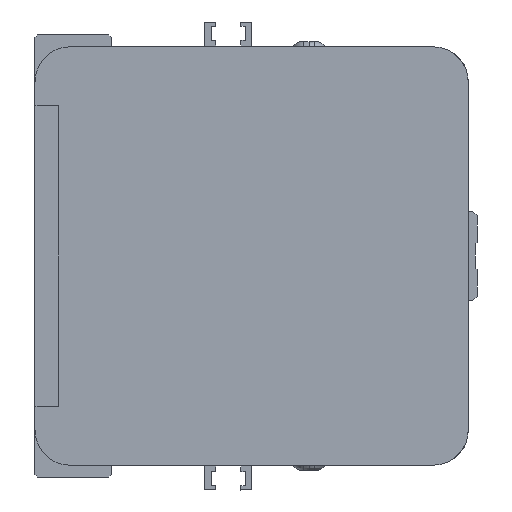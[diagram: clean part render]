
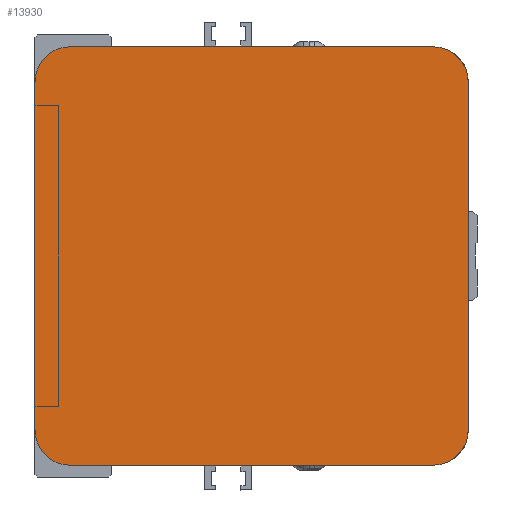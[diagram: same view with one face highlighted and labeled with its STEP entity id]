
A CAD part, left-side view. The second image highlights one B-rep face of the part: STEP entity #13930.
In plain terms, the highlighted planar face has unit normal (-1, 0, 0) as drawn and (0, 0, -1) by its records, which use the part's own axes.
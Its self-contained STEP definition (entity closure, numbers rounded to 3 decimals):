
#1020=CIRCLE('',#14943,6.);
#1021=CIRCLE('',#14948,6.);
#1029=CIRCLE('',#14959,6.);
#1030=CIRCLE('',#14961,6.);
#1724=FACE_OUTER_BOUND('',#2579,.T.);
#2579=EDGE_LOOP('',(#9758,#9759,#9760,#9761,#9762,#9763,#9764,#9765));
#3685=LINE('',#19662,#4965);
#3690=LINE('',#19673,#4970);
#3697=LINE('',#19688,#4977);
#3701=LINE('',#19773,#4981);
#4965=VECTOR('',#16281,61.5);
#4970=VECTOR('',#16292,59.);
#4977=VECTOR('',#16309,61.5);
#4981=VECTOR('',#16335,59.);
#6246=VERTEX_POINT('',#19658);
#6248=VERTEX_POINT('',#19661);
#6249=VERTEX_POINT('',#19666);
#6251=VERTEX_POINT('',#19672);
#6253=VERTEX_POINT('',#19683);
#6254=VERTEX_POINT('',#19687);
#6263=VERTEX_POINT('',#19768);
#6264=VERTEX_POINT('',#19772);
#7661=EDGE_CURVE('',#6248,#6246,#3685,.T.);
#7664=EDGE_CURVE('',#6248,#6249,#1020,.T.);
#7667=EDGE_CURVE('',#6251,#6249,#3690,.T.);
#7673=EDGE_CURVE('',#6251,#6253,#1021,.T.);
#7675=EDGE_CURVE('',#6254,#6253,#3697,.T.);
#7688=EDGE_CURVE('',#6263,#6246,#1029,.T.);
#7689=EDGE_CURVE('',#6263,#6264,#3701,.T.);
#7690=EDGE_CURVE('',#6254,#6264,#1030,.T.);
#9758=ORIENTED_EDGE('',*,*,#7673,.F.);
#9759=ORIENTED_EDGE('',*,*,#7667,.T.);
#9760=ORIENTED_EDGE('',*,*,#7664,.F.);
#9761=ORIENTED_EDGE('',*,*,#7661,.T.);
#9762=ORIENTED_EDGE('',*,*,#7688,.F.);
#9763=ORIENTED_EDGE('',*,*,#7689,.T.);
#9764=ORIENTED_EDGE('',*,*,#7690,.F.);
#9765=ORIENTED_EDGE('',*,*,#7675,.T.);
#13393=PLANE('',#14960);
#13930=ADVANCED_FACE('',(#1724),#13393,.F.);
#14943=AXIS2_PLACEMENT_3D('',#19667,#16286,#16287);
#14948=AXIS2_PLACEMENT_3D('',#19684,#16304,#16305);
#14959=AXIS2_PLACEMENT_3D('',#19770,#16331,#16332);
#14960=AXIS2_PLACEMENT_3D('',#19771,#16333,#16334);
#14961=AXIS2_PLACEMENT_3D('',#19774,#16336,#16337);
#16281=DIRECTION('',(0.,-1.,0.));
#16286=DIRECTION('center_axis',(0.,0.,
1.));
#16287=DIRECTION('ref_axis',(0.707,0.707,0.));
#16292=DIRECTION('',(1.,0.,0.));
#16304=DIRECTION('center_axis',(0.,0.,
1.));
#16305=DIRECTION('ref_axis',(-0.707,0.707,0.));
#16309=DIRECTION('',(0.,1.,0.));
#16331=DIRECTION('center_axis',(0.,0.,
1.));
#16332=DIRECTION('ref_axis',(0.707,-0.707,0.));
#16333=DIRECTION('center_axis',(0.,0.,
1.));
#16334=DIRECTION('ref_axis',(1.,0.,0.));
#16335=DIRECTION('',(-1.,0.,0.));
#16336=DIRECTION('center_axis',(0.,0.,
1.));
#16337=DIRECTION('ref_axis',(-0.707,-0.707,0.));
#19658=CARTESIAN_POINT('',(75.2,7.5,-757.));
#19661=CARTESIAN_POINT('',(75.2,69.,-757.));
#19662=CARTESIAN_POINT('',(75.2,69.,-757.));
#19666=CARTESIAN_POINT('',(69.2,75.,-757.));
#19667=CARTESIAN_POINT('Origin',(69.2,69.,-757.));
#19672=CARTESIAN_POINT('',(10.2,75.,-757.));
#19673=CARTESIAN_POINT('',(10.2,75.,-757.));
#19683=CARTESIAN_POINT('',(4.2,69.,-757.));
#19684=CARTESIAN_POINT('Origin',(10.2,69.,-757.));
#19687=CARTESIAN_POINT('',(4.2,7.5,-757.));
#19688=CARTESIAN_POINT('',(4.2,7.5,-757.));
#19768=CARTESIAN_POINT('',(69.2,1.5,-757.));
#19770=CARTESIAN_POINT('Origin',(69.2,7.5,-757.));
#19771=CARTESIAN_POINT('Origin',(39.7,38.25,-757.));
#19772=CARTESIAN_POINT('',(10.2,1.5,-757.));
#19773=CARTESIAN_POINT('',(69.2,1.5,-757.));
#19774=CARTESIAN_POINT('Origin',(10.2,7.5,-757.));
